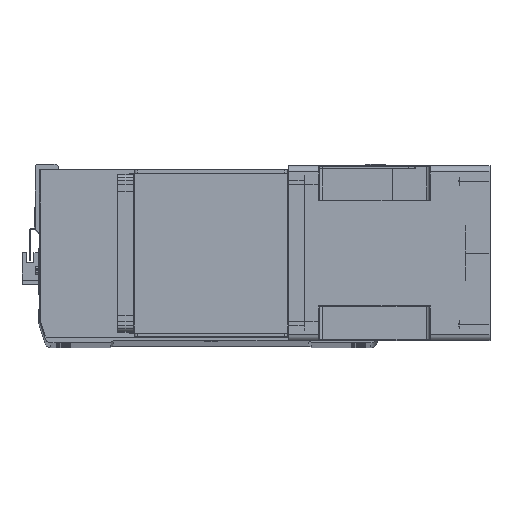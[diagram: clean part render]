
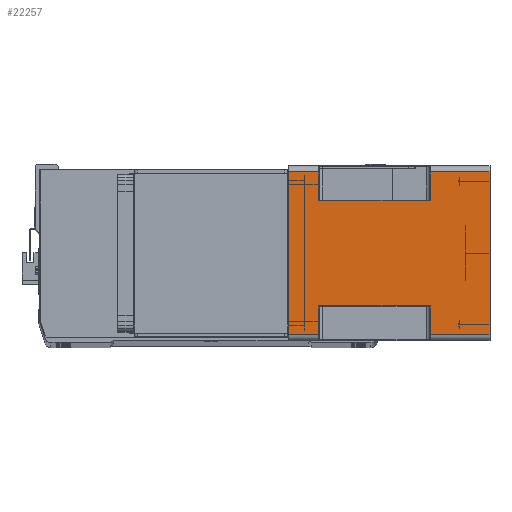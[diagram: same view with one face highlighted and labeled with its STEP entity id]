
A CAD part, top view. The second image highlights one B-rep face of the part: STEP entity #22257.
In plain terms, the highlighted planar face has unit normal (0, 0, 1) as drawn and (1, 0, 0) by its records, which use the part's own axes.
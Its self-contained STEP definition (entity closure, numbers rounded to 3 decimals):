
#180 = EDGE_CURVE ( 'NONE', #4207, #21540, #32612, .T. ) ;
#268 = CARTESIAN_POINT ( 'NONE',  ( 71., -43., -24.5 ) ) ;
#730 = LINE ( 'NONE', #19787, #23847 ) ;
#1055 = CARTESIAN_POINT ( 'NONE',  ( 71., -66., -24.5 ) ) ;
#1209 = VERTEX_POINT ( 'NONE', #10955 ) ;
#1218 = LINE ( 'NONE', #2494, #1607 ) ;
#1386 = VERTEX_POINT ( 'NONE', #6397 ) ;
#1607 = VECTOR ( 'NONE', #12697, 1000. ) ;
#1770 = ORIENTED_EDGE ( 'NONE', *, *, #26860, .F. ) ;
#1936 = CARTESIAN_POINT ( 'NONE',  ( 71., 43., -115.5 ) ) ;
#1961 = VERTEX_POINT ( 'NONE', #1936 ) ;
#2494 = CARTESIAN_POINT ( 'NONE',  ( 71., -66., -164. ) ) ;
#2891 = DIRECTION ( 'NONE',  ( 0., 0., -1. ) ) ;
#3486 = CARTESIAN_POINT ( 'NONE',  ( 71., -43., -115.5 ) ) ;
#4207 = VERTEX_POINT ( 'NONE', #13119 ) ;
#4295 = EDGE_CURVE ( 'NONE', #4207, #6229, #25669, .T. ) ;
#4498 = VECTOR ( 'NONE', #25031, 1000. ) ;
#4669 = VECTOR ( 'NONE', #2891, 1000. ) ;
#4683 = ORIENTED_EDGE ( 'NONE', *, *, #11934, .F. ) ;
#4892 = PLANE ( 'NONE',  #5392 ) ;
#5031 = EDGE_CURVE ( 'NONE', #1209, #1386, #1218, .T. ) ;
#5392 = AXIS2_PLACEMENT_3D ( 'NONE', #7473, #16841, #15150 ) ;
#5543 = CARTESIAN_POINT ( 'NONE',  ( 71., -66., -115.5 ) ) ;
#5749 = DIRECTION ( 'NONE',  ( 0., 1., 0. ) ) ;
#5753 = DIRECTION ( 'NONE',  ( 0., -1., 0. ) ) ;
#5805 = EDGE_CURVE ( 'NONE', #15287, #1961, #31837, .T. ) ;
#5834 = DIRECTION ( 'NONE',  ( 0., 0., 1. ) ) ;
#6229 = VERTEX_POINT ( 'NONE', #268 ) ;
#6397 = CARTESIAN_POINT ( 'NONE',  ( 71., 66., -164. ) ) ;
#7157 = ORIENTED_EDGE ( 'NONE', *, *, #20019, .F. ) ;
#7473 = CARTESIAN_POINT ( 'NONE',  ( 71., -66., -164. ) ) ;
#7475 = VECTOR ( 'NONE', #23428, 1000. ) ;
#8249 = VECTOR ( 'NONE', #5753, 1000. ) ;
#8268 = CARTESIAN_POINT ( 'NONE',  ( 71., -66., 0. ) ) ;
#9313 = EDGE_CURVE ( 'NONE', #26628, #1961, #17864, .T. ) ;
#9722 = VERTEX_POINT ( 'NONE', #21044 ) ;
#9894 = DIRECTION ( 'NONE',  ( 0., 0., 1. ) ) ;
#10290 = ORIENTED_EDGE ( 'NONE', *, *, #30985, .T. ) ;
#10613 = CARTESIAN_POINT ( 'NONE',  ( 71., -66., 0. ) ) ;
#10654 = DIRECTION ( 'NONE',  ( 0., -1., 0. ) ) ;
#10897 = LINE ( 'NONE', #17559, #4498 ) ;
#10955 = CARTESIAN_POINT ( 'NONE',  ( 71., -66., -164. ) ) ;
#11011 = VERTEX_POINT ( 'NONE', #21302 ) ;
#11934 = EDGE_CURVE ( 'NONE', #21510, #6229, #18169, .T. ) ;
#12447 = VECTOR ( 'NONE', #5834, 1000. ) ;
#12697 = DIRECTION ( 'NONE',  ( 0., 1., 0. ) ) ;
#13119 = CARTESIAN_POINT ( 'NONE',  ( 71., -66., -24.5 ) ) ;
#14084 = ORIENTED_EDGE ( 'NONE', *, *, #18122, .T. ) ;
#15150 = DIRECTION ( 'NONE',  ( 0., 1., 0. ) ) ;
#15287 = VERTEX_POINT ( 'NONE', #24465 ) ;
#16064 = CARTESIAN_POINT ( 'NONE',  ( 71., -66., -164. ) ) ;
#16268 = LINE ( 'NONE', #1055, #24701 ) ;
#16841 = DIRECTION ( 'NONE',  ( 1., 0., 0. ) ) ;
#17516 = ORIENTED_EDGE ( 'NONE', *, *, #5031, .T. ) ;
#17559 = CARTESIAN_POINT ( 'NONE',  ( 71., 66., -164. ) ) ;
#17661 = EDGE_CURVE ( 'NONE', #15287, #9722, #16268, .T. ) ;
#17864 = LINE ( 'NONE', #18485, #8249 ) ;
#18122 = EDGE_CURVE ( 'NONE', #9722, #11011, #730, .T. ) ;
#18169 = LINE ( 'NONE', #32703, #31731 ) ;
#18485 = CARTESIAN_POINT ( 'NONE',  ( 71., 43., -115.5 ) ) ;
#18868 = CARTESIAN_POINT ( 'NONE',  ( 71., -66., -115.5 ) ) ;
#19787 = CARTESIAN_POINT ( 'NONE',  ( 71., 66., -164. ) ) ;
#20019 = EDGE_CURVE ( 'NONE', #1209, #27056, #26072, .T. ) ;
#20694 = ORIENTED_EDGE ( 'NONE', *, *, #17661, .T. ) ;
#20880 = FACE_OUTER_BOUND ( 'NONE', #24307, .T. ) ;
#21013 = DIRECTION ( 'NONE',  ( 0., 1., 0. ) ) ;
#21044 = CARTESIAN_POINT ( 'NONE',  ( 71., 66., -24.5 ) ) ;
#21066 = CARTESIAN_POINT ( 'NONE',  ( 71., -43., -24.5 ) ) ;
#21302 = CARTESIAN_POINT ( 'NONE',  ( 71., 66., 0. ) ) ;
#21510 = VERTEX_POINT ( 'NONE', #3486 ) ;
#21540 = VERTEX_POINT ( 'NONE', #8268 ) ;
#22257 = ADVANCED_FACE ( 'NONE', ( #20880 ), #4892, .T. ) ;
#23291 = VECTOR ( 'NONE', #10654, 1000. ) ;
#23428 = DIRECTION ( 'NONE',  ( 0., 0., 1. ) ) ;
#23847 = VECTOR ( 'NONE', #27295, 1000. ) ;
#24100 = DIRECTION ( 'NONE',  ( 0., 1., 0. ) ) ;
#24307 = EDGE_LOOP ( 'NONE', ( #4683, #24990, #7157, #17516, #10290, #29013, #27543, #20694, #14084, #1770, #31099, #24655 ) ) ;
#24465 = CARTESIAN_POINT ( 'NONE',  ( 71., 43., -24.5 ) ) ;
#24655 = ORIENTED_EDGE ( 'NONE', *, *, #4295, .T. ) ;
#24701 = VECTOR ( 'NONE', #24100, 1000. ) ;
#24862 = VECTOR ( 'NONE', #5749, 1000. ) ;
#24990 = ORIENTED_EDGE ( 'NONE', *, *, #26205, .T. ) ;
#25031 = DIRECTION ( 'NONE',  ( 0., 0., 1. ) ) ;
#25669 = LINE ( 'NONE', #21066, #24862 ) ;
#26072 = LINE ( 'NONE', #16064, #12447 ) ;
#26205 = EDGE_CURVE ( 'NONE', #21510, #27056, #30511, .T. ) ;
#26628 = VERTEX_POINT ( 'NONE', #27527 ) ;
#26860 = EDGE_CURVE ( 'NONE', #21540, #11011, #31243, .T. ) ;
#27056 = VERTEX_POINT ( 'NONE', #18868 ) ;
#27264 = VECTOR ( 'NONE', #21013, 1000. ) ;
#27295 = DIRECTION ( 'NONE',  ( 0., 0., 1. ) ) ;
#27527 = CARTESIAN_POINT ( 'NONE',  ( 71., 66., -115.5 ) ) ;
#27543 = ORIENTED_EDGE ( 'NONE', *, *, #5805, .F. ) ;
#28430 = CARTESIAN_POINT ( 'NONE',  ( 71., 43., -164. ) ) ;
#28486 = CARTESIAN_POINT ( 'NONE',  ( 71., -66., -164. ) ) ;
#29013 = ORIENTED_EDGE ( 'NONE', *, *, #9313, .T. ) ;
#30511 = LINE ( 'NONE', #5543, #23291 ) ;
#30985 = EDGE_CURVE ( 'NONE', #1386, #26628, #10897, .T. ) ;
#31099 = ORIENTED_EDGE ( 'NONE', *, *, #180, .F. ) ;
#31243 = LINE ( 'NONE', #10613, #27264 ) ;
#31731 = VECTOR ( 'NONE', #9894, 1000. ) ;
#31837 = LINE ( 'NONE', #28430, #4669 ) ;
#32612 = LINE ( 'NONE', #28486, #7475 ) ;
#32703 = CARTESIAN_POINT ( 'NONE',  ( 71., -43., -164. ) ) ;
